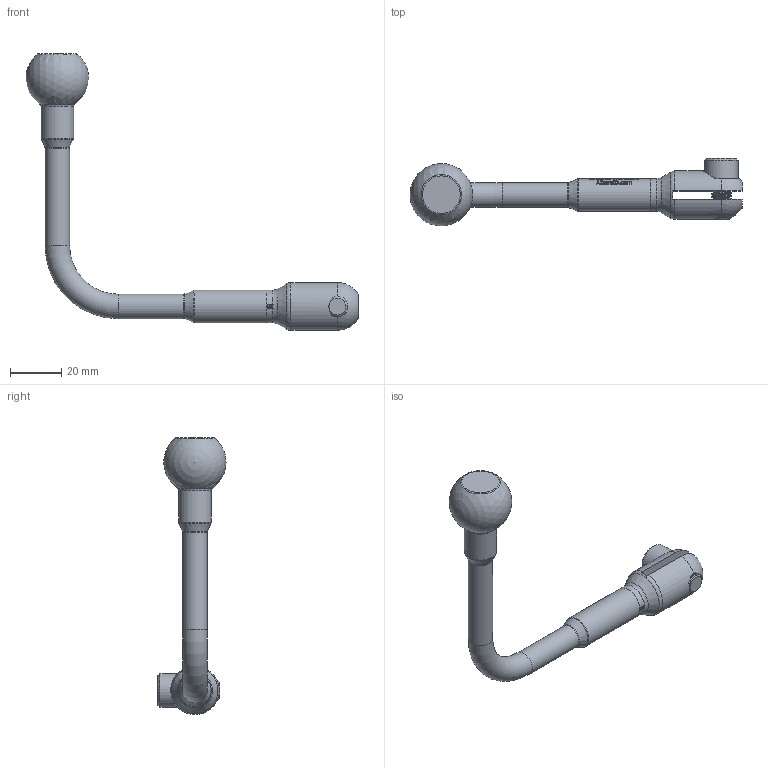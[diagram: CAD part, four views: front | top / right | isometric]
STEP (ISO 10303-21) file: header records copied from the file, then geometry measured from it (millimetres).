
FILE_DESCRIPTION(/* description */ (''),/* implementation_level */ '2;1');
FILE_NAME(/* name */ 'C:\Users\Doug Biddinger\Desktop\PL-BPOST-BK\PL-BPOST-BK.stp',/* time_stamp */ '2019-08-29T17:45:44-04:00',/* author */ ('Doug Biddinger'),/* organization */ (''),/* preprocessor_version */ 'ST-DEVELOPER v18',/* originating_system */ 'Autodesk Inventor 2020',/* authorisation */ '');
FILE_SCHEMA (('CONFIG_CONTROL_DESIGN'));
Length unit declared in the file: inch
Products named in the file (4): PL-BPOST-BK; 60231-BENT POST-bent; 60054; 60040
Assembly tree (3 placements, depth 2):
  PL-BPOST-BK
    60231-BENT POST-bent
    60054
    60040
Bounding box: 129.06 x 26.45 x 107.49 mm (x, y, z)
Volume: 27149.2 mm3; surface area: 12868.6 mm2
Topology: 4 solids, 4 shells, 918 faces, 2511 edges, 1680 vertices
Faces by surface type: plane 396, bspline 387, cylinder 112, torus 12, cone 8, sphere 3
Full cylindrical faces by diameter (mm): 6.369 x2, 6.655 x1, 7.912 x1, 7.95 x1, 8 x13, 8.357 x1, 9.525 x2, 12.611 x1, 12.7 x2, 13 x1
Entity records: 42603 total; most frequent: CARTESIAN_POINT 21346, ORIENTED_EDGE 5016, DIRECTION 3273, EDGE_CURVE 2508, VERTEX_POINT 1680, LINE 1173, VECTOR 1173, AXIS2_PLACEMENT_3D 1050
